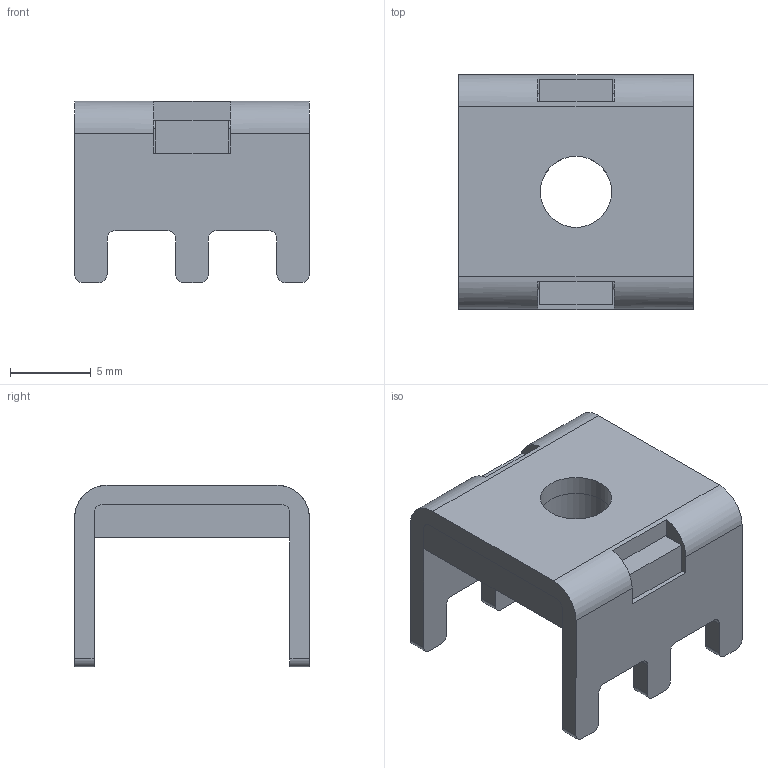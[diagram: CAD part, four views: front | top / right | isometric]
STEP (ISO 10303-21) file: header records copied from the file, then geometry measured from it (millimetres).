
FILE_DESCRIPTION(/* description */ (''),/* implementation_level */ '2;1');
FILE_NAME(/* name */ '14.5x14.5料厚1.2铁板高8.0mm脚长3.2mm_stp.stp',/* time_stamp */ '2025-06-27T16:02:43+08:00',/* author */ (''),/* organization */ (''),/* preprocessor_version */ 'ST-DEVELOPER v16',/* originating_system */ 'SIEMENS PLM Software NX 10.0',/* authorisation */ '');
FILE_SCHEMA (('AP203_CONFIGURATION_CONTROLLED_3D_DESIGN_OF_MECHANICAL_PARTS_AND_ASSEMBLIES_MIM_LF { 1 0 10303 403 2 1 2}'));
Length unit declared in the file: millimetre
Products named in the file (1): Admi2ABC7C88fy1u
Bounding box: 14.5 x 14.5 x 11.2 mm (x, y, z)
Volume: 794.6 mm3; surface area: 1437.4 mm2
Topology: 2 solids, 2 shells, 80 faces, 237 edges, 157 vertices
Faces by surface type: plane 48, cylinder 32
Full cylindrical faces by diameter (mm): 4.4 x2
Entity records: 2772 total; most frequent: CARTESIAN_POINT 471, ORIENTED_EDGE 468, DIRECTION 464, EDGE_CURVE 234, LINE 166, VECTOR 166, VERTEX_POINT 156, AXIS2_PLACEMENT_3D 149
